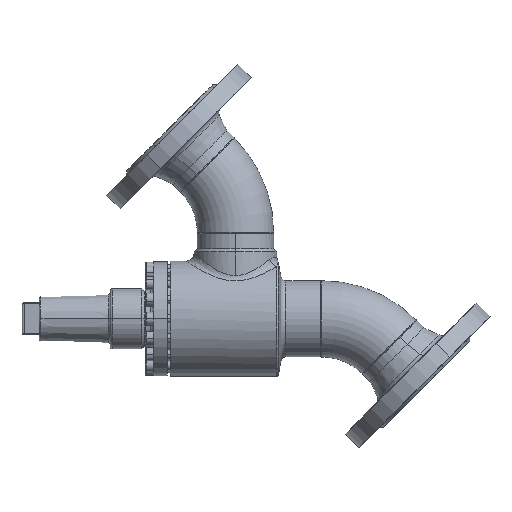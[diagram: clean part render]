
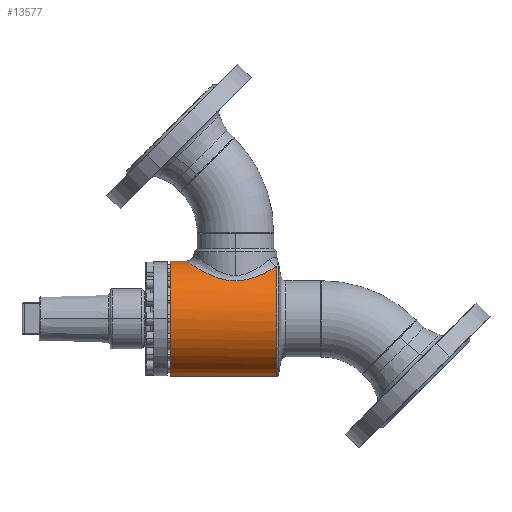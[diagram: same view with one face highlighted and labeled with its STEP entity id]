
A CAD part, left-side view. The second image highlights one B-rep face of the part: STEP entity #13577.
In plain terms, the highlighted cylindrical face has radius 57.5 mm (diameter 115 mm), a partial arc.
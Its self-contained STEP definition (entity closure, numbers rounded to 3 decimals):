
#17075 = ORIENTED_EDGE ( 'NONE', *, *, #17895, .T. ) ;
#17895 = EDGE_CURVE ( 'NONE', #8120, #6262, #11656, .T. ) ;
#2013 = ORIENTED_EDGE ( 'NONE', *, *, #11064, .T. ) ;
#3690 = EDGE_CURVE ( 'NONE', #8403, #9508, #6290, .T. ) ;
#4405 = B_SPLINE_CURVE_WITH_KNOTS ( 'NONE', 3,
 ( #4406, #4407, #4408, #4409, #4413, #4414, #4415, #4416, #4417, #4418, #4419, #4420, #4421, #4422, #4423, #4424, #4425, #4426, #4427, #4428, #4431, #4432, #4433, #4434, #4435, #4436, #4437, #4438, #4439, #4440, #4441, #4442, #4443, #4444, #4445, #4446, #4450, #4451, #4452, #4453, #4454, #4455, #4456, #4457, #4458, #4459, #4460, #4461, #4462, #4463, #4464, #4465, #4468, #4469, #4470, #4471, #4472, #4473, #4474, #4475, #4476, #4477 ),
 .UNSPECIFIED., .F., .F.,
 ( 4, 2, 2, 2, 2, 2, 2, 2, 2, 2, 2, 2, 2, 2, 2, 2, 2, 2, 2, 2, 2, 2, 2, 2, 2, 2, 2, 2, 2, 2, 4 ),
 ( 0., 0.008, 0.016, 0.017, 0.019, 0.023, 0.031, 0.035, 0.039, 0.047, 0.049, 0.05, 0.054, 0.058, 0.06, 0.062, 0.07, 0.074, 0.078, 0.085, 0.089, 0.091, 0.093, 0.101, 0.105, 0.107, 0.109, 0.116, 0.118, 0.12, 0.124 ),
 .UNSPECIFIED. ) ;
#4406 = CARTESIAN_POINT ( 'NONE',  ( -24.174, -105.892, 52.171 ) ) ;
#4407 = CARTESIAN_POINT ( 'NONE',  ( -26.132, -104.39, 51.264 ) ) ;
#4408 = CARTESIAN_POINT ( 'NONE',  ( -27.915, -102.76, 50.305 ) ) ;
#4409 = CARTESIAN_POINT ( 'NONE',  ( -31.195, -99.268, 48.34 ) ) ;
#4413 = CARTESIAN_POINT ( 'NONE',  ( -32.691, -97.405, 47.333 ) ) ;
#4414 = CARTESIAN_POINT ( 'NONE',  ( -34.397, -94.927, 46.079 ) ) ;
#4415 = CARTESIAN_POINT ( 'NONE',  ( -34.73, -94.424, 45.829 ) ) ;
#4416 = CARTESIAN_POINT ( 'NONE',  ( -35.379, -93.402, 45.329 ) ) ;
#4417 = CARTESIAN_POINT ( 'NONE',  ( -35.695, -92.884, 45.08 ) ) ;
#4418 = CARTESIAN_POINT ( 'NONE',  ( -36.613, -91.317, 44.344 ) ) ;
#4419 = CARTESIAN_POINT ( 'NONE',  ( -37.186, -90.253, 43.863 ) ) ;
#4420 = CARTESIAN_POINT ( 'NONE',  ( -38.793, -86.998, 42.466 ) ) ;
#4421 = CARTESIAN_POINT ( 'NONE',  ( -39.716, -84.747, 41.594 ) ) ;
#4422 = CARTESIAN_POINT ( 'NONE',  ( -40.882, -81.225, 40.437 ) ) ;
#4423 = CARTESIAN_POINT ( 'NONE',  ( -41.234, -80.027, 40.077 ) ) ;
#4424 = CARTESIAN_POINT ( 'NONE',  ( -41.862, -77.576, 39.421 ) ) ;
#4425 = CARTESIAN_POINT ( 'NONE',  ( -42.138, -76.319, 39.125 ) ) ;
#4426 = CARTESIAN_POINT ( 'NONE',  ( -42.831, -72.529, 38.37 ) ) ;
#4427 = CARTESIAN_POINT ( 'NONE',  ( -43.12, -69.961, 38.038 ) ) ;
#4428 = CARTESIAN_POINT ( 'NONE',  ( -43.257, -66.692, 37.883 ) ) ;
#4431 = CARTESIAN_POINT ( 'NONE',  ( -43.273, -66.034, 37.864 ) ) ;
#4432 = CARTESIAN_POINT ( 'NONE',  ( -43.282, -64.718, 37.854 ) ) ;
#4433 = CARTESIAN_POINT ( 'NONE',  ( -43.275, -64.063, 37.862 ) ) ;
#4434 = CARTESIAN_POINT ( 'NONE',  ( -43.219, -62.103, 37.926 ) ) ;
#4435 = CARTESIAN_POINT ( 'NONE',  ( -43.137, -60.806, 38.02 ) ) ;
#4436 = CARTESIAN_POINT ( 'NONE',  ( -42.884, -58.229, 38.305 ) ) ;
#4437 = CARTESIAN_POINT ( 'NONE',  ( -42.713, -56.95, 38.496 ) ) ;
#4438 = CARTESIAN_POINT ( 'NONE',  ( -42.391, -55.043, 38.85 ) ) ;
#4439 = CARTESIAN_POINT ( 'NONE',  ( -42.272, -54.408, 38.979 ) ) ;
#4440 = CARTESIAN_POINT ( 'NONE',  ( -42.014, -53.15, 39.257 ) ) ;
#4441 = CARTESIAN_POINT ( 'NONE',  ( -41.875, -52.528, 39.406 ) ) ;
#4442 = CARTESIAN_POINT ( 'NONE',  ( -41.13, -49.446, 40.191 ) ) ;
#4443 = CARTESIAN_POINT ( 'NONE',  ( -40.378, -47.077, 40.957 ) ) ;
#4444 = CARTESIAN_POINT ( 'NONE',  ( -39.022, -43.642, 42.237 ) ) ;
#4445 = CARTESIAN_POINT ( 'NONE',  ( -38.532, -42.517, 42.685 ) ) ;
#4446 = CARTESIAN_POINT ( 'NONE',  ( -37.473, -40.304, 43.618 ) ) ;
#4450 = CARTESIAN_POINT ( 'NONE',  ( -36.908, -39.223, 44.098 ) ) ;
#4451 = CARTESIAN_POINT ( 'NONE',  ( -35.115, -36.073, 45.559 ) ) ;
#4452 = CARTESIAN_POINT ( 'NONE',  ( -33.785, -34.085, 46.562 ) ) ;
#4453 = CARTESIAN_POINT ( 'NONE',  ( -31.574, -31.259, 48.064 ) ) ;
#4454 = CARTESIAN_POINT ( 'NONE',  ( -30.801, -30.343, 48.564 ) ) ;
#4455 = CARTESIAN_POINT ( 'NONE',  ( -29.582, -29.009, 49.309 ) ) ;
#4456 = CARTESIAN_POINT ( 'NONE',  ( -29.166, -28.57, 49.557 ) ) ;
#4457 = CARTESIAN_POINT ( 'NONE',  ( -28.313, -27.708, 50.049 ) ) ;
#4458 = CARTESIAN_POINT ( 'NONE',  ( -27.875, -27.282, 50.294 ) ) ;
#4459 = CARTESIAN_POINT ( 'NONE',  ( -25.646, -25.201, 51.504 ) ) ;
#4460 = CARTESIAN_POINT ( 'NONE',  ( -23.737, -23.688, 52.419 ) ) ;
#4461 = CARTESIAN_POINT ( 'NONE',  ( -20.66, -21.659, 53.671 ) ) ;
#4462 = CARTESIAN_POINT ( 'NONE',  ( -19.599, -21.023, 54.069 ) ) ;
#4463 = CARTESIAN_POINT ( 'NONE',  ( -17.948, -20.134, 54.63 ) ) ;
#4464 = CARTESIAN_POINT ( 'NONE',  ( -17.388, -19.848, 54.811 ) ) ;
#4465 = CARTESIAN_POINT ( 'NONE',  ( -16.247, -19.3, 55.16 ) ) ;
#4468 = CARTESIAN_POINT ( 'NONE',  ( -15.665, -19.037, 55.328 ) ) ;
#4469 = CARTESIAN_POINT ( 'NONE',  ( -12.734, -17.796, 56.125 ) ) ;
#4470 = CARTESIAN_POINT ( 'NONE',  ( -10.302, -17.028, 56.627 ) ) ;
#4471 = CARTESIAN_POINT ( 'NONE',  ( -7.142, -16.371, 57.058 ) ) ;
#4472 = CARTESIAN_POINT ( 'NONE',  ( -6.505, -16.254, 57.135 ) ) ;
#4473 = CARTESIAN_POINT ( 'NONE',  ( -5.216, -16.054, 57.267 ) ) ;
#4474 = CARTESIAN_POINT ( 'NONE',  ( -4.563, -15.969, 57.322 ) ) ;
#4475 = CARTESIAN_POINT ( 'NONE',  ( -2.602, -15.766, 57.456 ) ) ;
#4476 = CARTESIAN_POINT ( 'NONE',  ( -1.298, -15.7, 57.5 ) ) ;
#4477 = CARTESIAN_POINT ( 'NONE',  ( 0., -15.7, 57.5 ) ) ;
#4484 = EDGE_CURVE ( 'NONE', #8120, #11154, #6994, .T. ) ;
#4552 = CARTESIAN_POINT ( 'NONE',  ( 0., 0., -57.5 ) ) ;
#6262 = VERTEX_POINT ( 'NONE', #11056 ) ;
#6273 = CIRCLE ( 'NONE', #6274, 57.5 ) ;
#6274 = AXIS2_PLACEMENT_3D ( 'NONE', #6275, #6276, #6277 ) ;
#6275 = CARTESIAN_POINT ( 'NONE',  ( 0., 0., 0. ) ) ;
#6276 = DIRECTION ( 'NONE',  ( 0., 1., 0. ) ) ;
#6277 = DIRECTION ( 'NONE',  ( 0., 0., 1. ) ) ;
#6290 = LINE ( 'NONE', #6291, #6292 ) ;
#6291 = CARTESIAN_POINT ( 'NONE',  ( 0., -111., 57.5 ) ) ;
#6292 = VECTOR ( 'NONE', #6293, 1000. ) ;
#6293 = DIRECTION ( 'NONE',  ( 0., 1., 0. ) ) ;
#6475 = FACE_OUTER_BOUND ( 'NONE', #13290, .T. ) ;
#6480 = CYLINDRICAL_SURFACE ( 'NONE', #6481, 57.5 ) ;
#6481 = AXIS2_PLACEMENT_3D ( 'NONE', #6482, #6483, #6484 ) ;
#6482 = CARTESIAN_POINT ( 'NONE',  ( 0., -111., 0. ) ) ;
#6483 = DIRECTION ( 'NONE',  ( 0., 1., 0. ) ) ;
#6484 = DIRECTION ( 'NONE',  ( 0., 0., 1. ) ) ;
#6994 = LINE ( 'NONE', #6995, #6996 ) ;
#6995 = CARTESIAN_POINT ( 'NONE',  ( 0., -111., -57.5 ) ) ;
#6996 = VECTOR ( 'NONE', #6997, 1000. ) ;
#6997 = DIRECTION ( 'NONE',  ( 0., 1., 0. ) ) ;
#8120 = VERTEX_POINT ( 'NONE', #12413 ) ;
#8403 = VERTEX_POINT ( 'NONE', #12722 ) ;
#9508 = VERTEX_POINT ( 'NONE', #14477 ) ;
#10784 = ORIENTED_EDGE ( 'NONE', *, *, #3690, .T. ) ;
#11056 = CARTESIAN_POINT ( 'NONE',  ( -24.174, -105.892, 52.171 ) ) ;
#11064 = EDGE_CURVE ( 'NONE', #6262, #8403, #4405, .T. ) ;
#11154 = VERTEX_POINT ( 'NONE', #4552 ) ;
#11656 = CIRCLE ( 'NONE', #11660, 57.5 ) ;
#11660 = AXIS2_PLACEMENT_3D ( 'NONE', #11661, #11662, #11663 ) ;
#11661 = CARTESIAN_POINT ( 'NONE',  ( 0., -105.892, 0. ) ) ;
#11662 = DIRECTION ( 'NONE',  ( 0., 1., 0. ) ) ;
#11663 = DIRECTION ( 'NONE',  ( 0., 0., -1. ) ) ;
#12413 = CARTESIAN_POINT ( 'NONE',  ( 0., -105.892, -57.5 ) ) ;
#12722 = CARTESIAN_POINT ( 'NONE',  ( 0., -15.7, 57.5 ) ) ;
#12765 = ORIENTED_EDGE ( 'NONE', *, *, #4484, .F. ) ;
#13179 = EDGE_CURVE ( 'NONE', #11154, #9508, #6273, .T. ) ;
#13290 = EDGE_LOOP ( 'NONE', ( #12765, #17075, #2013, #10784, #13612 ) ) ;
#13577 = ADVANCED_FACE ( 'NONE', ( #6475 ), #6480, .T. ) ;
#13612 = ORIENTED_EDGE ( 'NONE', *, *, #13179, .F. ) ;
#14477 = CARTESIAN_POINT ( 'NONE',  ( 0., 0., 57.5 ) ) ;
